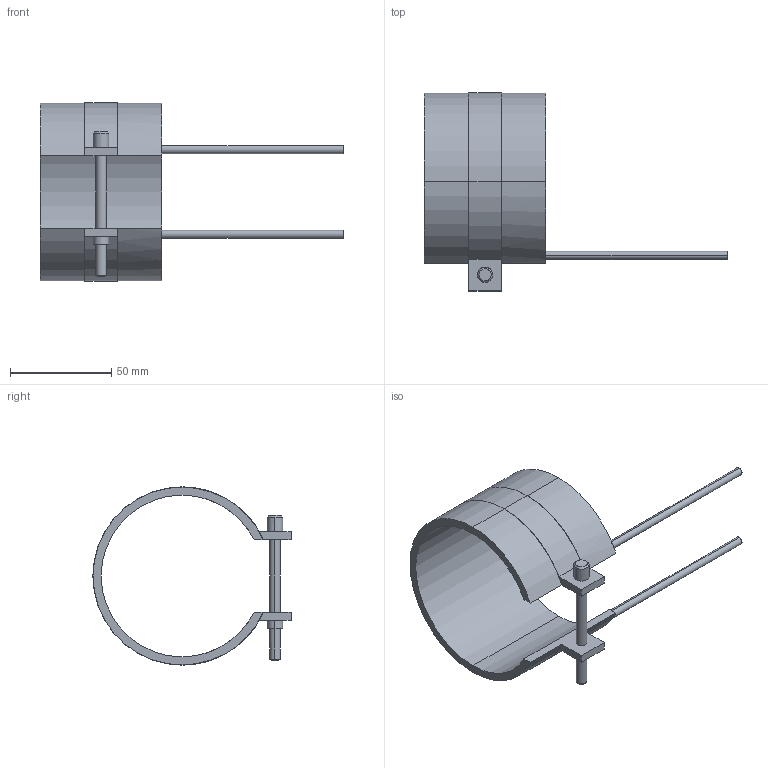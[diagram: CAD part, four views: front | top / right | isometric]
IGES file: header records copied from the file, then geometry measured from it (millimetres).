
Start section: START RECORD GO HERE.
Global section: file name: 14080060.igs; native system: DASSAULT SYSTEMES CATIA V5 R20 - www.3ds.com; preprocessor: CATIA Version 5 Release 20 ; author: Utente; organization: NB04-ASUS; date: 20210403.104848; units: millimetre
Bounding box: 150 x 98.1 x 88.2 mm (x, y, z)
Surface area: 34127.4 mm2 (no closed solid volume)
Topology: 0 solids, 0 shells, 45 faces, 232 edges, 232 vertices
Faces by surface type: revolution 28, plane 17
